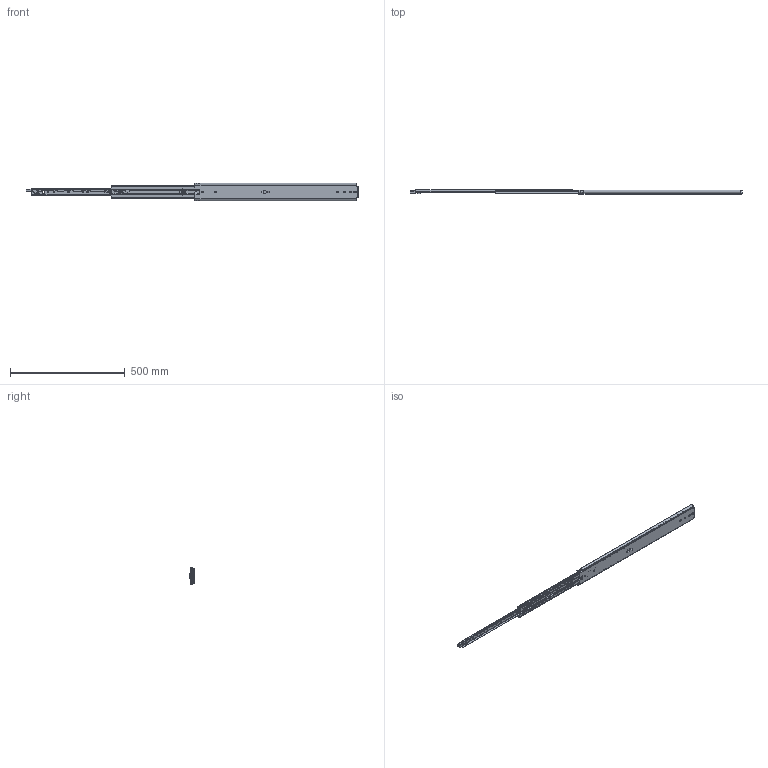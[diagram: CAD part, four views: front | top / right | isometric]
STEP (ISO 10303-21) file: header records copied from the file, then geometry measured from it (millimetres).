
FILE_DESCRIPTION((''),'2;1');
FILE_NAME('DCL2307619-711-OPEN_ASM_ASM','2023-05-10T',('jishu015'),(''),'PRO/ENGINEER BY PARAMETRIC TECHNOLOGY CORPORATION, 2010280','PRO/ENGINEER BY PARAMETRIC TECHNOLOGY CORPORATION, 2010280','');
FILE_SCHEMA(('CONFIG_CONTROL_DESIGN'));
Products named in the file (32): KP-76-04WAIKE-1816______2; 1076-WAIKEZIDANJIAO16______1; WAIK16______ASM_1_ASM; 1076XIAOZHUTIAO-22516______1; 16______1; 1076XIAOZHUTIAO-17516______ASM__ASM; KP-76-04ZHONGGUI1816______1; 76CHANGGUIZHONGGUIJIAO16______1; 3X6WODIN16______1; ZHONGGUIBAIKOU16______1; PJ-76-30_____1; PJ-76-03_____1; 76-XIAOZHUJIA-11_____1; GANGZHU-XIAO_____1; ZHUJIA-XIAO_____ASM_1_ASM; ZHONGGUI6______ASM_2_ASM; KP-76-04NEIGUI1816______2; PJ-76-31_____1; DAOGPIAN16______1; MANIFOLD_SOLID_BREP_53893; MANIFOLD_SOLID_BREP_54334; 1053-3SBANJ01_____2_ASM; JIAO-11_____2; 76XINSUOKOU_____2; PJ-338_____1; PJ-356_____1; PJ-357_____1; PJ-336_____1; M4X4_____1; NEIGUI16______ASM_2_ASM; DG-76-3S-28YOU_ASM_2_ASM; DCL2307619-711-OPEN_ASM_ASM
Assembly tree (67 placements, depth 5):
  DCL2307619-711-OPEN_ASM_ASM
    DG-76-3S-28YOU_ASM_2_ASM
      WAIK16______ASM_1_ASM
        KP-76-04WAIKE-1816______2
        1076-WAIKEZIDANJIAO16______1  x2
      1076XIAOZHUTIAO-17516______ASM__ASM  x2
        1076XIAOZHUTIAO-22516______1
        16______1
      ZHONGGUI6______ASM_2_ASM
        KP-76-04ZHONGGUI1816______1
        76CHANGGUIZHONGGUIJIAO16______1
        3X6WODIN16______1
        ZHONGGUIBAIKOU16______1
        PJ-76-30_____1
        PJ-76-03_____1
        ZHUJIA-XIAO_____ASM_1_ASM
          76-XIAOZHUJIA-11_____1
          GANGZHU-XIAO_____1  x24
      NEIGUI16______ASM_2_ASM
        KP-76-04NEIGUI1816______2
        PJ-76-31_____1
        DAOGPIAN16______1
        1053-3SBANJ01_____2_ASM
          MANIFOLD_SOLID_BREP_53893
          MANIFOLD_SOLID_BREP_54334
        JIAO-11_____2
        76XINSUOKOU_____2
        PJ-338_____1
        PJ-356_____1
        PJ-357_____1
        PJ-336_____1
        M4X4_____1
Bounding box: 1448.32 x 20.6 x 75.3 mm (x, y, z)
Volume: 466857 mm3; surface area: 449428.8 mm2
Topology: 72 solids, 72 shells, 2008 faces, 6300 edges, 4115 vertices
Faces by surface type: plane 966, cylinder 710, sphere 175, bspline 89, cone 28, extrusion 24, torus 16
Entity records: 70398 total; most frequent: CARTESIAN_POINT 22027, ORIENTED_EDGE 10680, DIRECTION 9509, EDGE_CURVE 5340, VERTEX_POINT 3574, AXIS2_PLACEMENT_3D 3344, VECTOR 2821, LINE 2797
